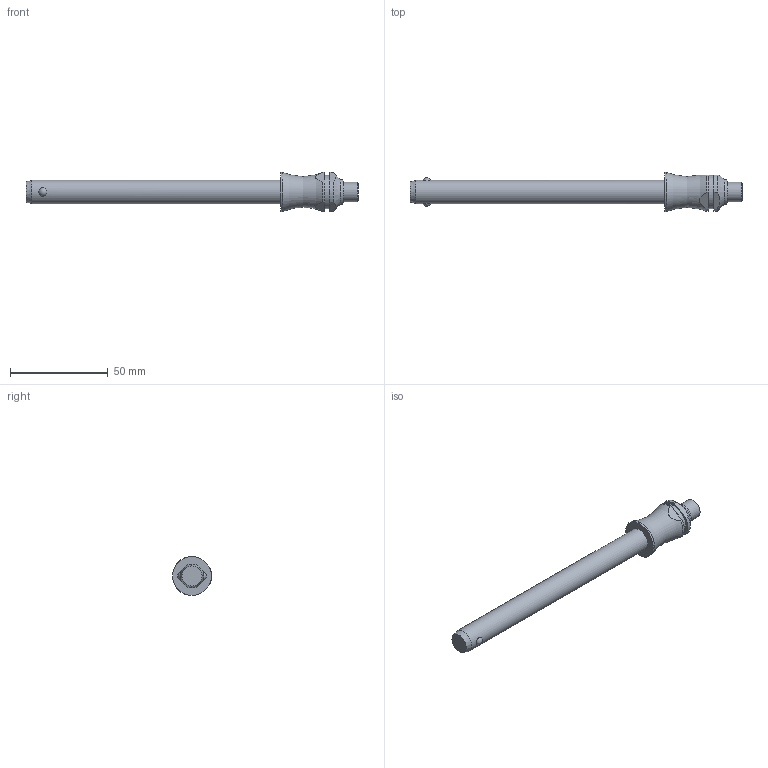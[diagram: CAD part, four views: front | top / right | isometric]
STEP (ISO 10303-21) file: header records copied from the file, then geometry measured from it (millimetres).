
FILE_DESCRIPTION( ( 'STEP AP203' ), '1' );
FILE_NAME( 'C:/Temp/Ganter_Step_05_03_2020/data/3_1/gn113_3/Stainless Steel-Ball lock pin GN 113.3-12-120 (deactivated).stp', '2020-03-12T08:18:49', ( 'License CC BY-ND 4.0' ), ( 'CADENAS' ), ' ', 'PARTsolutions', ' ' );
FILE_SCHEMA( ( 'CONFIG_CONTROL_DESIGN' ) );
Length unit declared in the file: millimetre
Products named in the file (1): _Stainless Steel-Ball lock pin GN 113.3-12-120 (deactivated)
Bounding box: 170.1 x 20 x 20 mm (x, y, z)
Volume: 22709.3 mm3; surface area: 7485.8 mm2
Topology: 1 solids, 1 shells, 28 faces, 60 edges, 39 vertices
Faces by surface type: plane 11, cylinder 10, cone 3, torus 2, sphere 2
Full cylindrical faces by diameter (mm): 10 x1, 12 x1, 17 x1, 20 x1
Entity records: 954 total; most frequent: CARTESIAN_POINT 338, DIRECTION 122, ORIENTED_EDGE 98, AXIS2_PLACEMENT_3D 52, EDGE_CURVE 49, EDGE_LOOP 42, VERTEX_POINT 38, FACE_OUTER_BOUND 34
